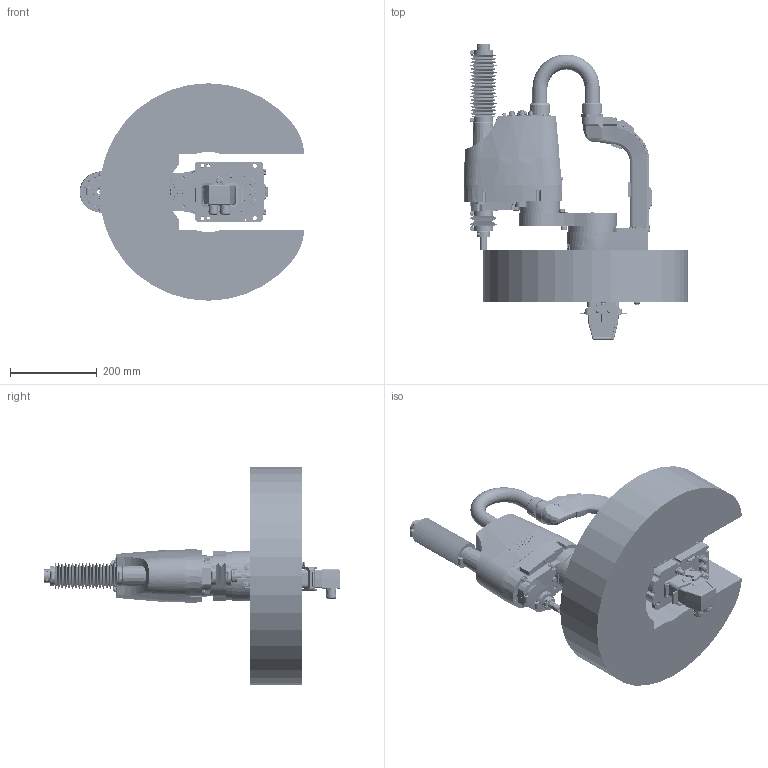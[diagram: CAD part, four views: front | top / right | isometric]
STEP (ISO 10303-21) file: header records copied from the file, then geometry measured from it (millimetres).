
FILE_DESCRIPTION( ( 'STEP AP214' ), '1' );
FILE_NAME( 'C:/Users/9607552/Desktop/GX4-A/GX4-A251CB-AW.stp', '2023-04-07T04:38:31', ( '' ), ( '' ), ' ', 'PARTsolutions', ' ' );
FILE_SCHEMA( ( 'AUTOMOTIVE_DESIGN { 1 0 10303 214 1 1 1 1 }' ) );
Length unit declared in the file: millimetre
Products named in the file (10): GX4-A251CB-AW; _A251CBbasesb; _A251S_J1_ARM; _A251S-a; _A251S_CONDUIT; _A251C; _A251C-long; _A251C-short; _Angle; _GX4-22_WS
Assembly tree (9 placements, depth 2):
  GX4-A251CB-AW
    _A251CBbasesb
    _A251S_J1_ARM
    _A251S-a
    _A251S_CONDUIT
    _A251C
    _A251C-long
    _A251C-short
    _Angle
    _GX4-22_WS
Bounding box: 517.13 x 680.1 x 500 mm (x, y, z)
Volume: 25550333.9 mm3; surface area: 1436805.5 mm2
Topology: 9 solids, 9 shells, 4213 faces, 10332 edges, 6722 vertices
Faces by surface type: plane 2447, cylinder 1142, cone 418, torus 119, bspline 86, sphere 1
Full cylindrical faces by diameter (mm): 1 x30, 1.13 x55, 1.18 x55, 2.459 x4, 2.5 x16, 3 x48, 3.2 x3, 3.242 x1, 3.3 x41, 3.4 x32, 3.5 x12, 4 x5, 4.5 x16, 4.8 x4, 4.917 x2, 5.34 x8, 5.4 x14, 5.5 x26, 5.6 x2, 5.68 x4, 6 x21, 6.5 x12, 6.7 x4, 6.8 x4, 6.98 x4, 7 x37, 7.1 x4, 8 x21, 8.08 x1, 8.2 x8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
Entity records: 158534 total; most frequent: CARTESIAN_POINT 30544, DIRECTION 18736, ORIENTED_EDGE 18558, EDGE_CURVE 9279, AXIS2_PLACEMENT_3D 7100, VERTEX_POINT 6615, EDGE_LOOP 5775, FACE_OUTER_BOUND 4884
